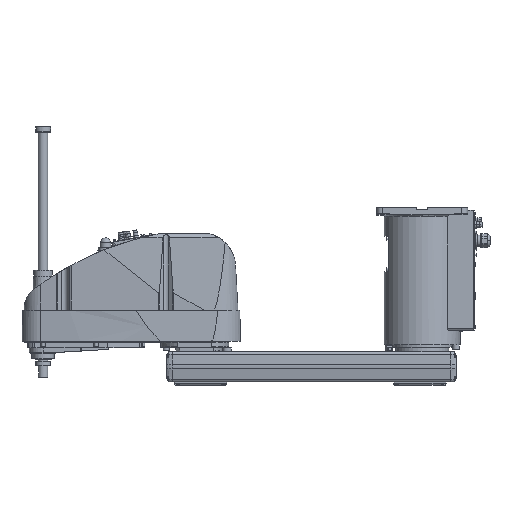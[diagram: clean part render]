
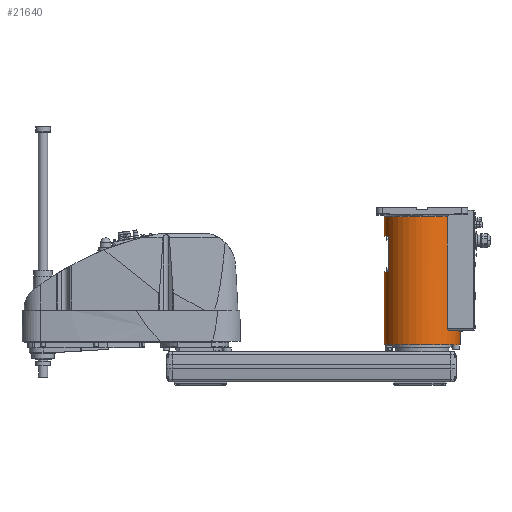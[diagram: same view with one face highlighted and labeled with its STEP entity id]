
A CAD part, top view. The second image highlights one B-rep face of the part: STEP entity #21640.
In plain terms, the highlighted cylindrical face has radius 100 mm (diameter 200 mm), a partial arc.
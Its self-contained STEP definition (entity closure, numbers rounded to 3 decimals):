
#10382 = EDGE_CURVE( '', #14758, #12940, #28325, .T. );
#10724 = EDGE_CURVE( '', #14264, #17570, #28708, .T. );
#11022 = EDGE_CURVE( '', #23384, #19956, #29038, .T. );
#11346 = EDGE_CURVE( '', #12790, #12612, #29388, .T. );
#12160 = EDGE_CURVE( '', #12612, #14758, #30289, .T. );
#12196 = VERTEX_POINT( '', #30328 );
#12574 = VERTEX_POINT( '', #30747 );
#12612 = VERTEX_POINT( '', #30789 );
#12790 = VERTEX_POINT( '', #30981 );
#12940 = VERTEX_POINT( '', #31149 );
#13896 = EDGE_CURVE( '', #12196, #23384, #32209, .T. );
#14264 = VERTEX_POINT( '', #32638 );
#14472 = VERTEX_POINT( '', #32862 );
#14758 = VERTEX_POINT( '', #33182 );
#14884 = EDGE_CURVE( '', #12574, #12940, #33328, .T. );
#15786 = EDGE_CURVE( '', #22530, #17570, #34309, .T. );
#17570 = VERTEX_POINT( '', #36288 );
#17910 = VERTEX_POINT( '', #36670 );
#17958 = VERTEX_POINT( '', #36721 );
#19096 = EDGE_CURVE( '', #19956, #17958, #38014, .T. );
#19136 = VERTEX_POINT( '', #38058 );
#19384 = EDGE_CURVE( '', #14472, #19136, #38343, .T. );
#19600 = EDGE_CURVE( '', #12196, #17910, #38583, .T. );
#19956 = VERTEX_POINT( '', #38995 );
#20620 = EDGE_CURVE( '', #17910, #22530, #39761, .T. );
#21640 = ADVANCED_FACE( '', ( #40911 ), #40912, .T. );
#22530 = VERTEX_POINT( '', #41894 );
#23384 = VERTEX_POINT( '', #42855 );
#23802 = EDGE_CURVE( '', #17958, #14472, #43318, .T. );
#24064 = EDGE_CURVE( '', #25988, #14264, #43616, .T. );
#24118 = EDGE_CURVE( '', #12574, #25988, #43673, .T. );
#25988 = VERTEX_POINT( '', #45752 );
#26000 = EDGE_CURVE( '', #19136, #12790, #45768, .T. );
#28325 = CIRCLE( '', #48815, 100. );
#28708 = CIRCLE( '', #49339, 100. );
#29038 = LINE( '', #49773, #49774 );
#29388 = LINE( '', #50279, #50280 );
#30289 = CIRCLE( '', #51561, 100. );
#30328 = CARTESIAN_POINT( '', ( 100., 64., 0. ) );
#30747 = CARTESIAN_POINT( '', ( -100., 311.3, 0. ) );
#30789 = CARTESIAN_POINT( '', ( 66.144, 363., 75. ) );
#30981 = CARTESIAN_POINT( '', ( 66.144, 68., 75. ) );
#31149 = CARTESIAN_POINT( '', ( -100., 363., 0. ) );
#32209 = CIRCLE( '', #54328, 100. );
#32638 = CARTESIAN_POINT( '', ( -88., 218.3, 47.497 ) );
#32862 = CARTESIAN_POINT( '', ( 75.993, 64., 65. ) );
#33182 = CARTESIAN_POINT( '', ( 0., 363., 100. ) );
#33328 = LINE( '', #55932, #55933 );
#34309 = LINE( '', #57431, #57432 );
#36288 = CARTESIAN_POINT( '', ( -100., 218.3, 0. ) );
#36670 = CARTESIAN_POINT( '', ( 100., 25., 0. ) );
#36721 = CARTESIAN_POINT( '', ( 75.993, 62., 65. ) );
#38014 = CIRCLE( '', #62691, 100. );
#38058 = CARTESIAN_POINT( '', ( 70.42, 64., 71. ) );
#38343 = CIRCLE( '', #63223, 100. );
#38583 = LINE( '', #63542, #63543 );
#38995 = CARTESIAN_POINT( '', ( 89.303, 62., 45. ) );
#39761 = CIRCLE( '', #65258, 100. );
#40911 = FACE_OUTER_BOUND( '', #66880, .T. );
#40912 = CYLINDRICAL_SURFACE( '', #66881, 100. );
#41894 = CARTESIAN_POINT( '', ( -100., 25., 0. ) );
#42855 = CARTESIAN_POINT( '', ( 89.303, 64., 45. ) );
#43318 = LINE( '', #70317, #70318 );
#43616 = LINE( '', #70742, #70743 );
#43673 = CIRCLE( '', #70841, 100. );
#45752 = CARTESIAN_POINT( '', ( -88., 311.3, 47.497 ) );
#45768 = B_SPLINE_CURVE_WITH_KNOTS( '', 3, ( #73858, #73859, #73860, #73861, #73862, #73863, #73864, #73865, #73866, #73867, #73868, #73869, #73870, #73871, #73872, #73873, #73874, #73875 ), .UNSPECIFIED., .F., .F., ( 4, 2, 2, 2, 2, 2, 2, 2, 4 ), ( -7.48, -6.36, -5.24, -4.12, -3., -2.25, -1.5, -0.75, 0. ), .UNSPECIFIED. );
#48815 = AXIS2_PLACEMENT_3D( '', #76897, #76898, #76899 );
#49339 = AXIS2_PLACEMENT_3D( '', #77337, #77338, #77339 );
#49773 = CARTESIAN_POINT( '', ( 89.303, 63., 45. ) );
#49774 = VECTOR( '', #77709, 1. );
#50279 = CARTESIAN_POINT( '', ( 66.144, 215.5, 75. ) );
#50280 = VECTOR( '', #78042, 1. );
#51561 = AXIS2_PLACEMENT_3D( '', #79024, #79025, #79026 );
#54328 = AXIS2_PLACEMENT_3D( '', #81170, #81171, #81172 );
#55932 = CARTESIAN_POINT( '', ( -100., 194., 0. ) );
#55933 = VECTOR( '', #82513, 1. );
#57431 = CARTESIAN_POINT( '', ( -100., 194., 0. ) );
#57432 = VECTOR( '', #83489, 1. );
#62691 = AXIS2_PLACEMENT_3D( '', #87801, #87802, #87803 );
#63223 = AXIS2_PLACEMENT_3D( '', #88185, #88186, #88187 );
#63542 = CARTESIAN_POINT( '', ( 100., 194., 0. ) );
#63543 = VECTOR( '', #88430, 1. );
#65258 = AXIS2_PLACEMENT_3D( '', #89875, #89876, #89877 );
#66880 = EDGE_LOOP( '', ( #91363, #91364, #91365, #91366, #91367, #91368, #91369, #91370, #91371, #91372, #91373, #91374, #91375, #91376, #91377, #91378 ) );
#66881 = AXIS2_PLACEMENT_3D( '', #91379, #91380, #91381 );
#70317 = CARTESIAN_POINT( '', ( 75.993, 63., 65. ) );
#70318 = VECTOR( '', #94136, 1. );
#70742 = CARTESIAN_POINT( '', ( -88., 264.8, 47.497 ) );
#70743 = VECTOR( '', #94496, 1. );
#70841 = AXIS2_PLACEMENT_3D( '', #94547, #94548, #94549 );
#73858 = CARTESIAN_POINT( '', ( 70.42, 64., 71. ) );
#73859 = CARTESIAN_POINT( '', ( 70.155, 64., 71.263 ) );
#73860 = CARTESIAN_POINT( '', ( 69.877, 64.026, 71.535 ) );
#73861 = CARTESIAN_POINT( '', ( 69.316, 64.139, 72.08 ) );
#73862 = CARTESIAN_POINT( '', ( 69.031, 64.224, 72.352 ) );
#73863 = CARTESIAN_POINT( '', ( 68.475, 64.457, 72.879 ) );
#73864 = CARTESIAN_POINT( '', ( 68.203, 64.604, 73.134 ) );
#73865 = CARTESIAN_POINT( '', ( 67.688, 64.954, 73.61 ) );
#73866 = CARTESIAN_POINT( '', ( 67.446, 65.158, 73.831 ) );
#73867 = CARTESIAN_POINT( '', ( 67.082, 65.542, 74.162 ) );
#73868 = CARTESIAN_POINT( '', ( 66.938, 65.716, 74.292 ) );
#73869 = CARTESIAN_POINT( '', ( 66.674, 66.103, 74.529 ) );
#73870 = CARTESIAN_POINT( '', ( 66.555, 66.315, 74.636 ) );
#73871 = CARTESIAN_POINT( '', ( 66.356, 66.766, 74.812 ) );
#73872 = CARTESIAN_POINT( '', ( 66.277, 67.005, 74.882 ) );
#73873 = CARTESIAN_POINT( '', ( 66.171, 67.497, 74.976 ) );
#73874 = CARTESIAN_POINT( '', ( 66.144, 67.75, 75. ) );
#73875 = CARTESIAN_POINT( '', ( 66.144, 68., 75. ) );
#76897 = CARTESIAN_POINT( '', ( 0., 363., 0. ) );
#76898 = DIRECTION( '', ( 0., -1., 0. ) );
#76899 = DIRECTION( '', ( 1., 0., 0. ) );
#77337 = CARTESIAN_POINT( '', ( 0., 218.3, 0. ) );
#77338 = DIRECTION( '', ( 0., -1., 0. ) );
#77339 = DIRECTION( '', ( 1., 0., 0. ) );
#77709 = DIRECTION( '', ( 0., -1., 0. ) );
#78042 = DIRECTION( '', ( 0., 1., 0. ) );
#79024 = CARTESIAN_POINT( '', ( 0., 363., 0. ) );
#79025 = DIRECTION( '', ( 0., -1., 0. ) );
#79026 = DIRECTION( '', ( 1., 0., 0. ) );
#81170 = CARTESIAN_POINT( '', ( 0., 64., 0. ) );
#81171 = DIRECTION( '', ( 0., -1., 0. ) );
#81172 = DIRECTION( '', ( 1., 0., 0. ) );
#82513 = DIRECTION( '', ( 0., 1., 0. ) );
#83489 = DIRECTION( '', ( 0., 1., 0. ) );
#87801 = CARTESIAN_POINT( '', ( 0., 62., 0. ) );
#87802 = DIRECTION( '', ( 0., -1., 0. ) );
#87803 = DIRECTION( '', ( 1., 0., 0. ) );
#88185 = CARTESIAN_POINT( '', ( 0., 64., 0. ) );
#88186 = DIRECTION( '', ( 0., -1., 0. ) );
#88187 = DIRECTION( '', ( 1., 0., 0. ) );
#88430 = DIRECTION( '', ( 0., -1., 0. ) );
#89875 = CARTESIAN_POINT( '', ( 0., 25., 0. ) );
#89876 = DIRECTION( '', ( 0., -1., 0. ) );
#89877 = DIRECTION( '', ( 1., 0., 0. ) );
#91363 = ORIENTED_EDGE( '', *, *, #19600, .F. );
#91364 = ORIENTED_EDGE( '', *, *, #13896, .T. );
#91365 = ORIENTED_EDGE( '', *, *, #11022, .T. );
#91366 = ORIENTED_EDGE( '', *, *, #19096, .T. );
#91367 = ORIENTED_EDGE( '', *, *, #23802, .T. );
#91368 = ORIENTED_EDGE( '', *, *, #19384, .T. );
#91369 = ORIENTED_EDGE( '', *, *, #26000, .T. );
#91370 = ORIENTED_EDGE( '', *, *, #11346, .T. );
#91371 = ORIENTED_EDGE( '', *, *, #12160, .T. );
#91372 = ORIENTED_EDGE( '', *, *, #10382, .T. );
#91373 = ORIENTED_EDGE( '', *, *, #14884, .F. );
#91374 = ORIENTED_EDGE( '', *, *, #24118, .T. );
#91375 = ORIENTED_EDGE( '', *, *, #24064, .T. );
#91376 = ORIENTED_EDGE( '', *, *, #10724, .T. );
#91377 = ORIENTED_EDGE( '', *, *, #15786, .F. );
#91378 = ORIENTED_EDGE( '', *, *, #20620, .F. );
#91379 = CARTESIAN_POINT( '', ( 0., 194., 0. ) );
#91380 = DIRECTION( '', ( 0., 1., 0. ) );
#91381 = DIRECTION( '', ( 1., 0., 0. ) );
#94136 = DIRECTION( '', ( 0., 1., 0. ) );
#94496 = DIRECTION( '', ( 0., -1., 0. ) );
#94547 = CARTESIAN_POINT( '', ( 0., 311.3, 0. ) );
#94548 = DIRECTION( '', ( 0., 1., 0. ) );
#94549 = DIRECTION( '', ( 1., 0., 0. ) );
